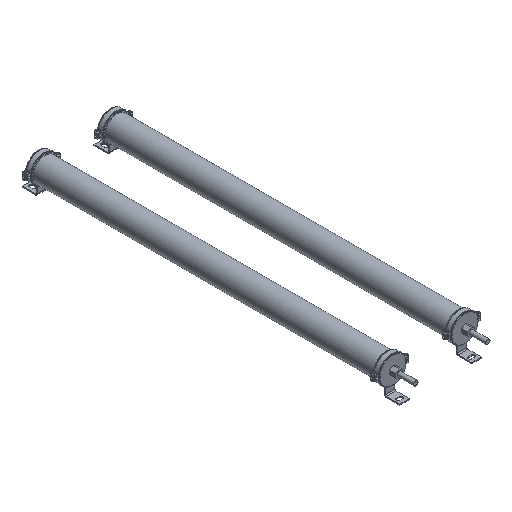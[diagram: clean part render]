
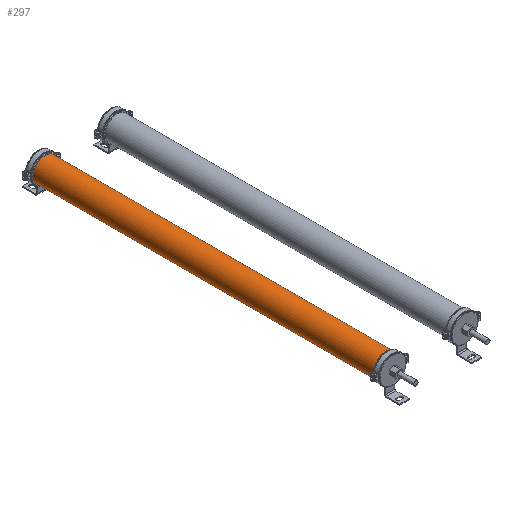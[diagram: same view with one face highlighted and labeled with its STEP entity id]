
A CAD part, isometric view. The second image highlights one B-rep face of the part: STEP entity #297.
In plain terms, the highlighted cylindrical face has radius 25 mm (diameter 50 mm), a full revolution.
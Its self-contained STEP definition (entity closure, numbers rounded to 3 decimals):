
#297 = ADVANCED_FACE( '', ( #715, #716 ), #717, .T. );
#715 = FACE_OUTER_BOUND( '', #1193, .T. );
#716 = FACE_OUTER_BOUND( '', #1194, .T. );
#717 = CYLINDRICAL_SURFACE( '', #1195, 25. );
#1193 = EDGE_LOOP( '', ( #2465 ) );
#1194 = EDGE_LOOP( '', ( #2466 ) );
#1195 = AXIS2_PLACEMENT_3D( '', #2467, #2468, #2469 );
#2465 = ORIENTED_EDGE( '', *, *, #3130, .F. );
#2466 = ORIENTED_EDGE( '', *, *, #3131, .T. );
#2467 = CARTESIAN_POINT( '', ( 0., 0., 0. ) );
#2468 = DIRECTION( '', ( 0., 1., 0. ) );
#2469 = DIRECTION( '', ( 0., 0., -1. ) );
#3130 = EDGE_CURVE( '', #3835, #3835, #3836, .T. );
#3131 = EDGE_CURVE( '', #3837, #3837, #3838, .T. );
#3835 = VERTEX_POINT( '', #4801 );
#3836 = CIRCLE( '', #4802, 25. );
#3837 = VERTEX_POINT( '', #4803 );
#3838 = CIRCLE( '', #4804, 25. );
#4801 = CARTESIAN_POINT( '', ( 0., 14., -25. ) );
#4802 = AXIS2_PLACEMENT_3D( '', #5636, #5637, #5638 );
#4803 = CARTESIAN_POINT( '', ( 0., 725., -25. ) );
#4804 = AXIS2_PLACEMENT_3D( '', #5639, #5640, #5641 );
#5636 = CARTESIAN_POINT( '', ( 0., 14., 0. ) );
#5637 = DIRECTION( '', ( 0., -1., 0. ) );
#5638 = DIRECTION( '', ( 0., 0., -1. ) );
#5639 = CARTESIAN_POINT( '', ( 0., 725., 0. ) );
#5640 = DIRECTION( '', ( 0., -1., 0. ) );
#5641 = DIRECTION( '', ( 0., 0., -1. ) );
